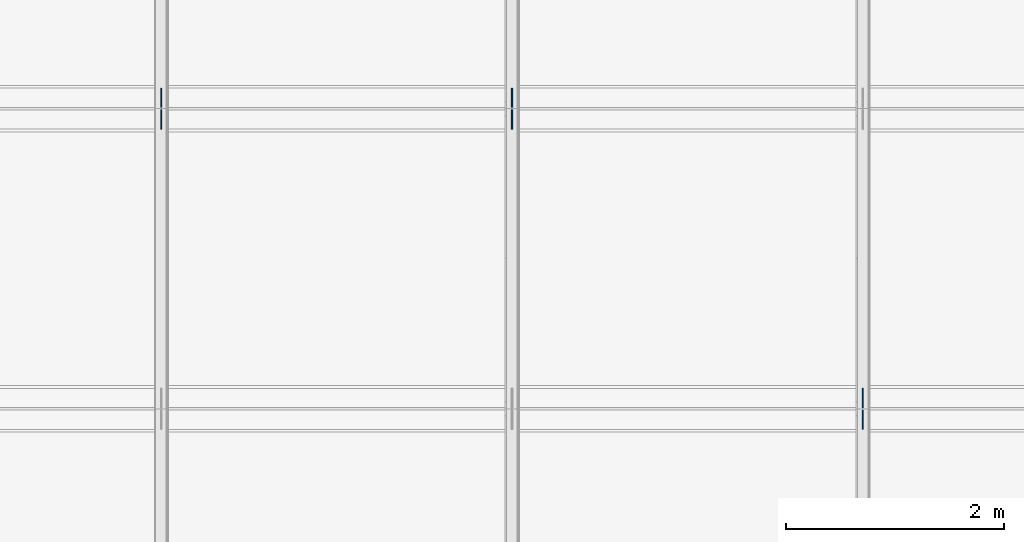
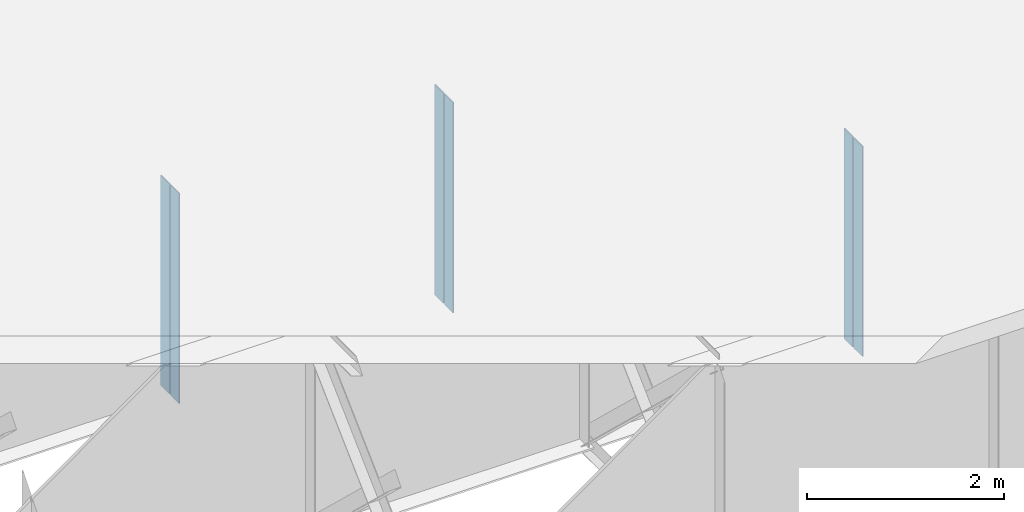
# One storey, part 8 of 13: 6 plates.
"""IFC4 building model written with IfcOpenShell, lengths in metres."""

from ifc_helpers import new_model, si_unit, frame, origin, origin_with_axes, origin_2d_with_axis, place, context, subcontext, project, spatial, rectangle, extrude, element, save


model = new_model("IFC4")

# Units and contexts
model_context = context("Model", 3, precision=1e-05, world=origin())
body_context = subcontext(model_context, "Body", "Model", "MODEL_VIEW")
ifc_project = project(units=[si_unit("LENGTHUNIT", "METRE"), si_unit("AREAUNIT", "SQUARE_METRE"), si_unit("VOLUMEUNIT", "CUBIC_METRE"), si_unit("PLANEANGLEUNIT", "RADIAN")], contexts=[model_context])

# Site, building, storey
site_placement = place(None, origin_with_axes())
site = spatial("IfcSite", under=ifc_project, at=site_placement, Name="Default Site")
building_placement = place(site_placement, origin_with_axes())
building = spatial("IfcBuilding", under=site, at=building_placement, Name="Bridge Structure")
storey_placement = place(building_placement, origin_with_axes())
storey = spatial("IfcBuildingStorey", under=building, at=storey_placement, Name="Superstructure")

# Plates
for number, where, z_axis, x_axis, name in (
    (1, (22.498, -1.27575, -1.305), (0.0, 0.0, 1.0), (1.0, 0.0, 0.0), "Intermediate Stiffener 2"),
    (2, (22.498, -1.47425, -1.305), (0.0, 0.0, 1.0), (1.0, 0.0, 0.0), "Intermediate Stiffener 2"),
    (3, (16.07, 1.47425, -1.305), (0.0, 0.0, 1.0), (1.0, 0.0, 0.0), "Intermediate Stiffener 3"),
    (4, (16.07, 1.27575, -1.305), (0.0, 0.0, 1.0), (1.0, 0.0, 0.0), "Intermediate Stiffener 3"),
    (5, (19.284, 1.47425, -1.305), (0.0, 0.0, 1.0), (1.0, 0.0, 0.0), "Intermediate Stiffener 3"),
    (6, (19.284, 1.27575, -1.305), (0.0, 0.0, 1.0), (1.0, 0.0, 0.0), "Intermediate Stiffener 3"),
):
    element("IfcPlate", number, at=place(storey_placement, frame(where, z_axis=z_axis, x_axis=x_axis)), inside=storey, Name=name, context=body_context, shape_type="SweptSolid", body=[
        extrude(rectangle(XDim=0.012, YDim=0.1765, at=origin_2d_with_axis()), origin_with_axes(), (0.0, 0.0, 1.0), 2.61),
    ])

save(model, "model.ifc")
